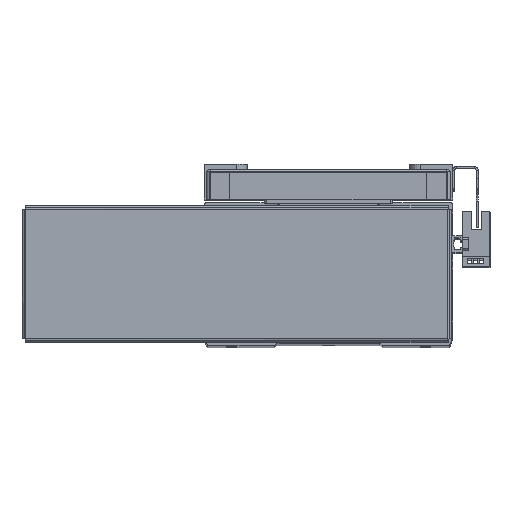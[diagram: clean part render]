
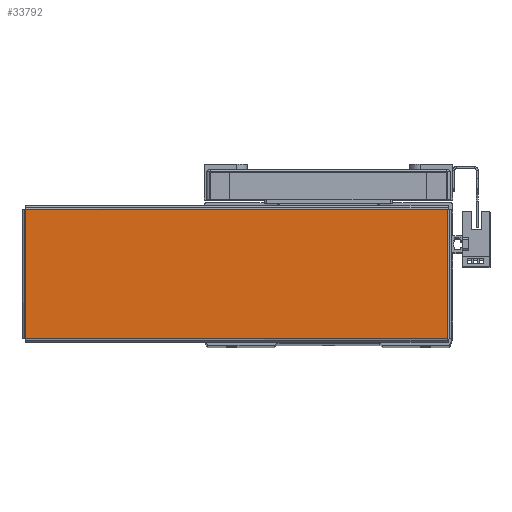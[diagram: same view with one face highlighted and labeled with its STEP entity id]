
A CAD part, top view. The second image highlights one B-rep face of the part: STEP entity #33792.
In plain terms, the highlighted planar face has unit normal (0, 0, 1) as drawn and (0, -1, 0) by its records, which use the part's own axes.
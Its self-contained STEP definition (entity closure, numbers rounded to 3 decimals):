
#793 = AXIS2_PLACEMENT_3D ( 'NONE', #4222, #4220, #4230 ) ;
#4211 = PLANE ( 'NONE',  #793 ) ;
#4220 = DIRECTION ( 'NONE',  ( 0., 1., 0. ) ) ;
#4222 = CARTESIAN_POINT ( 'NONE',  ( 0., -1., 0. ) ) ;
#4230 = DIRECTION ( 'NONE',  ( 0., 0., 1. ) ) ;
#14378 = FACE_OUTER_BOUND ( 'NONE', #49878, .T. ) ;
#15118 = CARTESIAN_POINT ( 'NONE',  ( -103.793, -1., -31.763 ) ) ;
#15121 = DIRECTION ( 'NONE',  ( -1., 0., 0. ) ) ;
#15145 = CARTESIAN_POINT ( 'NONE',  ( 103.793, -1., 31.763 ) ) ;
#15159 = DIRECTION ( 'NONE',  ( 0., 0., -1. ) ) ;
#15182 = DIRECTION ( 'NONE',  ( 1., 0., 0. ) ) ;
#15185 = CARTESIAN_POINT ( 'NONE',  ( -103.763, -1., 31.793 ) ) ;
#15265 = DIRECTION ( 'NONE',  ( 0., 0., 1. ) ) ;
#15285 = CARTESIAN_POINT ( 'NONE',  ( 103.763, -1., -31.793 ) ) ;
#25713 = VECTOR ( 'NONE', #15121, 1000. ) ;
#25757 = LINE ( 'NONE', #15118, #25759 ) ;
#25759 = VECTOR ( 'NONE', #15182, 1000. ) ;
#25777 = LINE ( 'NONE', #15145, #25713 ) ;
#25878 = LINE ( 'NONE', #15185, #25879 ) ;
#25879 = VECTOR ( 'NONE', #15159, 1000. ) ;
#25937 = VECTOR ( 'NONE', #15265, 1000. ) ;
#25971 = LINE ( 'NONE', #15285, #25937 ) ;
#27194 = VERTEX_POINT ( 'NONE', #30108 ) ;
#27215 = VERTEX_POINT ( 'NONE', #30154 ) ;
#27233 = VERTEX_POINT ( 'NONE', #30174 ) ;
#27312 = VERTEX_POINT ( 'NONE', #30264 ) ;
#28799 = EDGE_CURVE ( 'NONE', #27215, #27233, #25777, .T. ) ;
#28807 = EDGE_CURVE ( 'NONE', #27194, #27312, #25757, .T. ) ;
#28833 = EDGE_CURVE ( 'NONE', #27233, #27194, #25878, .T. ) ;
#28906 = EDGE_CURVE ( 'NONE', #27312, #27215, #25971, .T. ) ;
#30108 = CARTESIAN_POINT ( 'NONE',  ( -103.763, -1., -31.763 ) ) ;
#30154 = CARTESIAN_POINT ( 'NONE',  ( 103.763, -1., 31.763 ) ) ;
#30174 = CARTESIAN_POINT ( 'NONE',  ( -103.763, -1., 31.763 ) ) ;
#30264 = CARTESIAN_POINT ( 'NONE',  ( 103.763, -1., -31.763 ) ) ;
#33792 = ADVANCED_FACE ( 'NONE', ( #14378 ), #4211, .F. ) ;
#41579 = ORIENTED_EDGE ( 'NONE', *, *, #28833, .T. ) ;
#41602 = ORIENTED_EDGE ( 'NONE', *, *, #28906, .T. ) ;
#41628 = ORIENTED_EDGE ( 'NONE', *, *, #28807, .T. ) ;
#41648 = ORIENTED_EDGE ( 'NONE', *, *, #28799, .T. ) ;
#49878 = EDGE_LOOP ( 'NONE', ( #41648, #41579, #41628, #41602 ) ) ;
